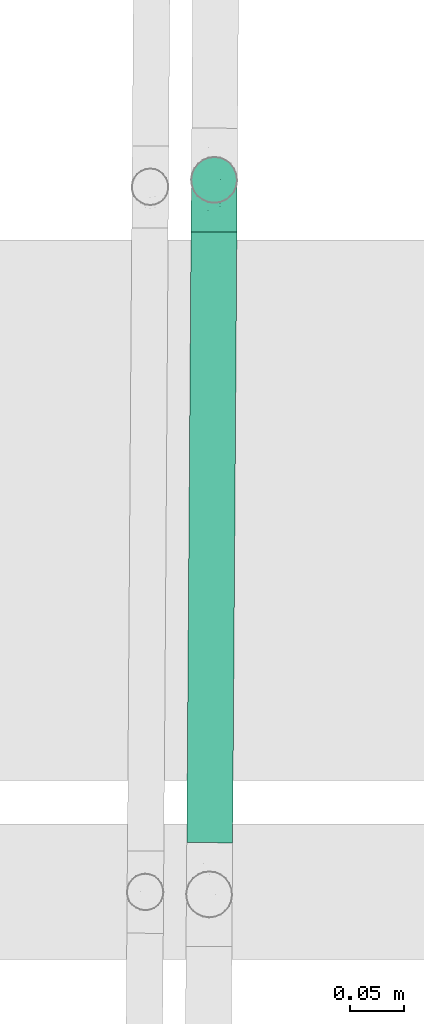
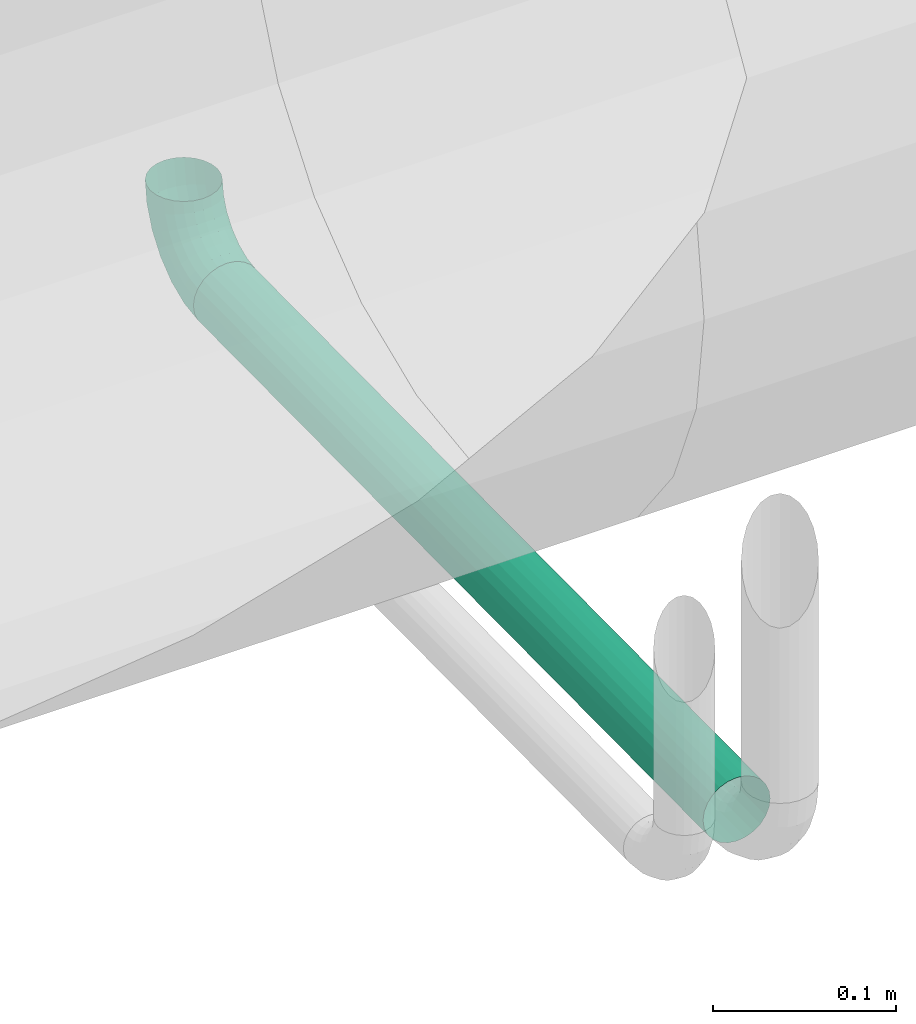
# One storey, part 316 of 374: 2 flow segments.
"""IFC2X3 building model written with IfcOpenShell, lengths in metres."""

from ifc_helpers import new_model, si_unit, direction, origin, place, context, subcontext, project, spatial, open_shell, surface_model, source, transform, mapped, element, save


model = new_model("IFC2X3")

# Units and contexts
model_context = context("Model", 3, precision=1e-05, world=origin(), true_north=direction((-0.4480736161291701, 0.8939966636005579)))
body_context = subcontext(model_context, "Body", "Model", "MODEL_VIEW")
ifc_project = project(units=[si_unit("LENGTHUNIT", "METRE"), si_unit("AREAUNIT", "SQUARE_METRE"), si_unit("VOLUMEUNIT", "CUBIC_METRE"), si_unit("PLANEANGLEUNIT", "RADIAN"), si_unit("THERMODYNAMICTEMPERATUREUNIT", "KELVIN"), si_unit("MASSUNIT", "GRAM", prefix="KILO"), si_unit("TIMEUNIT", "SECOND")], contexts=[model_context])

# Site, building, storey
site_placement = place(None, origin())
site = spatial("IfcSite", under=ifc_project, at=site_placement, Name="Site 1", CompositionType="ELEMENT")
building_placement = place(site_placement, origin())
building = spatial("IfcBuilding", under=site, at=building_placement, Name="Undefined", CompositionType="ELEMENT")
storey_placement = place(building_placement, origin())
storey = spatial("IfcBuildingStorey", under=building, at=storey_placement, Name="Rez de chauss\x8ee", CompositionType="ELEMENT", Elevation=0.0)

# Flow segments
shared_shape_1 = source(origin(), body_context, "Body", "SurfaceModel", [
    surface_model("IfcFaceBasedSurfaceModel", [(0.01806482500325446, 7.105427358e-15, 0.0), (0.017970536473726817, 0.005533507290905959, 0.0), (9.428852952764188e-05, 0.005533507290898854, 0.0), (0.0, 0.0, 0.0), (-0.017172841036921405, 0.00613233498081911, -0.004587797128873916), (-0.01744928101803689, 0.0006051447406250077, -0.004636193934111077), (-0.03265412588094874, 0.007289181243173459, -0.013450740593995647), (-0.0330938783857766, 0.0017741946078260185, -0.013592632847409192), (-0.045294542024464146, 0.008925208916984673, -0.02598483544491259), (-0.045867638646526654, 0.0034274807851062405, -0.02625895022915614), (-0.054232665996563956, 0.010928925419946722, -0.041335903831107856), (-0.05490005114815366, 0.005452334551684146, -0.04177195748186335), (-0.05885937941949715, 0.013163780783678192, -0.05845779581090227), (-0.059575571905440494, 0.007710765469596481, -0.05907446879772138), (0.01769409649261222, 0.010875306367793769, -0.0014203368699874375), (0.00037072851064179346, 0.010875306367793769, -0.0014203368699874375), (-0.016362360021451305, 0.011455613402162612, -0.005866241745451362), (-0.03136483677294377, 0.012576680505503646, -0.014455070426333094), (-0.04361430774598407, 0.014162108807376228, -0.026601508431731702), (-0.05227599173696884, 0.016103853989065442, -0.0414777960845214), (-0.05675960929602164, 0.018269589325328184, -0.05807013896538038), (0.017254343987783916, 0.015661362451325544, -0.0041642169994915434), (0.0008104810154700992, 0.015661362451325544, -0.004164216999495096), (-0.01507307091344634, 0.016212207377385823, -0.008384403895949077), (-0.029313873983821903, 0.01727635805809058, -0.016537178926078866), (-0.04094144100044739, 0.01878129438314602, -0.02806694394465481), (-0.049163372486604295, 0.02062445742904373, -0.042187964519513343), (-0.05341935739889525, 0.02268023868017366, -0.05793791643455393), (0.016681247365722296, 0.01956551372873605, -0.008044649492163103), (0.001383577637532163, 0.01956551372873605, -0.008044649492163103), (-0.01339283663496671, 0.020077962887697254, -0.011970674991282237), (-0.026641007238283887, 0.021067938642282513, -0.01955517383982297), (-0.03745809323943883, 0.02246797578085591, -0.03028127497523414), (-0.04510692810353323, 0.0241826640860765, -0.04341801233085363), (-0.04906625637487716, 0.026095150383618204, -0.05807013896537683), (0.016013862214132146, 0.022321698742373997, -0.012797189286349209), (0.0020509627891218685, 0.022321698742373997, -0.012797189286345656), (-0.011436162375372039, 0.02278943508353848, -0.016380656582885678), (-0.023528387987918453, 0.02369303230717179, -0.023303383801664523), (-0.03340164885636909, 0.024970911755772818, -0.03309359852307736), (-0.040383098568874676, 0.026535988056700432, -0.04508411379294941), (-0.04399696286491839, 0.028281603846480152, -0.05845779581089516), (0.015297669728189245, 0.023742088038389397, -0.018097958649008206), (0.00276715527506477, 0.023742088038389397, -0.018097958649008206), (-0.009336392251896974, 0.024161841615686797, -0.021313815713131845), (-0.02018813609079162, 0.02497274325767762, -0.0275263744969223), (-0.029048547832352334, 0.02611953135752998, -0.03631225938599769), (-0.03531380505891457, 0.027524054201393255, -0.04707272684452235), (-0.0385569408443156, 0.02909059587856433, -0.05907446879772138), (0.014581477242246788, 0.023729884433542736, -0.02358571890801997), (0.0034833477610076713, 0.023729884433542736, -0.02358571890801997), (-0.007236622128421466, 0.024101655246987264, -0.026433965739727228), (-0.016847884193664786, 0.02481986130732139, -0.03193635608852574), (-0.02469544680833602, 0.02583555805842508, -0.03971791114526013), (-0.0302445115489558, 0.027079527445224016, -0.04924833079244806), (-0.03311691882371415, 0.02846699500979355, -0.059878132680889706), (0.013914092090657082, 0.02228591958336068, -0.02888648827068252), (0.004150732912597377, 0.022285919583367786, -0.028886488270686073), (-0.005279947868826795, 0.022612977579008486, -0.031392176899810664), (-0.013735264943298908, 0.023244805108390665, -0.03623279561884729), (-0.020639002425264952, 0.02413834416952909, -0.04307846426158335), (-0.025520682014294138, 0.025232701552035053, -0.051462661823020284), (-0.028047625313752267, 0.026453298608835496, -0.060814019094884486), (0.013340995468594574, 0.01950859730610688, -0.03363902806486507), (0.0047238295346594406, 0.01950859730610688, -0.033639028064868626), (-0.0035997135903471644, 0.019797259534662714, -0.035850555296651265), (-0.011062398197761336, 0.0203549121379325, -0.04012289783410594), (-0.017155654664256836, 0.021143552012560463, -0.04616490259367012), (-0.02146423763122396, 0.022109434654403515, -0.05356481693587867), (-0.02369452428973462, 0.023186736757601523, -0.06181834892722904), (0.012901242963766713, 0.015587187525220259, -0.037519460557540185), (0.005163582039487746, 0.015587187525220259, -0.03751946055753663), (-0.0023104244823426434, 0.015846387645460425, -0.03950526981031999), (-0.009011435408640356, 0.016347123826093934, -0.043341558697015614), (-0.01448278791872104, 0.017055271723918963, -0.048766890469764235), (-0.018351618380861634, 0.017922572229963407, -0.05541153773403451), (-0.02035427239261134, 0.018889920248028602, -0.06282267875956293), (0.012624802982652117, 0.010788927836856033, -0.040263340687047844), (0.005440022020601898, 0.010788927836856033, -0.0402633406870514), (-0.0014999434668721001, 0.011029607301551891, -0.04210725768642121), (-0.007722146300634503, 0.01149456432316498, -0.045669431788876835), (-0.012802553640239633, 0.012152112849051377, -0.05070710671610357), (-0.0163949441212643, 0.012957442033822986, -0.056876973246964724), (-0.018254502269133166, 0.013855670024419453, -0.06375856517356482), (0.012530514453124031, 0.005440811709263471, -0.041683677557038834), (0.005534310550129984, 0.0054408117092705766, -0.041683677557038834), (-0.0012235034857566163, 0.005675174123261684, -0.04347919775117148), (-0.007282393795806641, 0.006127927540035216, -0.046947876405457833), (-0.012229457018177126, 0.0067682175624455, -0.05185332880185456), (-0.015727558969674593, 0.007552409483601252, -0.05786125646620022), (-0.01753830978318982, 0.008427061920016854, -0.0645622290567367), (0.012624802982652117, -9.269558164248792e-05, -0.04168367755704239), (0.005440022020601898, -9.269558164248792e-05, -0.04168367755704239), (-0.0014999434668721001, 0.00014798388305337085, -0.0435275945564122), (-0.0014999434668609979, 0.00014798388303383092, -0.0435275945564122), (-0.007722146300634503, 0.0006129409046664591, -0.047089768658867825), (-0.012802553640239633, 0.001270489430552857, -0.05212744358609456), (-0.0163949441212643, 0.002075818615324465, -0.058297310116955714), (-0.018254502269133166, 0.0029740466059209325, -0.06517890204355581), (0.012901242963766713, -0.005434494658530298, -0.0402633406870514), (0.005163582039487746, -0.005434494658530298, -0.040263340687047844), (-0.0023104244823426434, -0.005175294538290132, -0.0422491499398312), (-0.009011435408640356, -0.004674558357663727, -0.046085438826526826), (-0.01448278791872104, -0.0039664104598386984, -0.051510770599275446), (-0.018351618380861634, -0.0030991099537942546, -0.05815541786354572), (-0.02035427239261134, -0.0021317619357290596, -0.06556655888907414), (0.013340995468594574, -0.010220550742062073, -0.03751946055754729), (0.0047238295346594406, -0.010220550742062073, -0.03751946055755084), (-0.0035997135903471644, -0.009931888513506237, -0.03973098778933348), (-0.011062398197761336, -0.009374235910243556, -0.04400333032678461), (-0.017155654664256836, -0.00858559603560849, -0.05004533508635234), (-0.02146423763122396, -0.007619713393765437, -0.057445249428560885), (-0.02369452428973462, -0.006542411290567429, -0.06569878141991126), (0.013914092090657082, -0.01412470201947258, -0.03363902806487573), (0.004150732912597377, -0.014124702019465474, -0.033639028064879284), (-0.005279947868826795, -0.013797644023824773, -0.036144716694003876), (-0.013735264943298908, -0.013165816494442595, -0.0409853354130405), (-0.020639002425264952, -0.012272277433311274, -0.04783100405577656), (-0.025520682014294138, -0.011177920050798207, -0.05621520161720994), (-0.028047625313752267, -0.009957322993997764, -0.0655665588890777), (0.014581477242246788, -0.01688088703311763, -0.028886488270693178), (0.0034833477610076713, -0.01688088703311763, -0.028886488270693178), (-0.007236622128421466, -0.016509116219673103, -0.031734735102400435), (-0.016847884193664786, -0.015790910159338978, -0.03723712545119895), (-0.02469544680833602, -0.014775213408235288, -0.04501868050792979), (-0.0302445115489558, -0.01353124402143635, -0.054549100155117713), (-0.03311691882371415, -0.012143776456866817, -0.06517890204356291), (0.015297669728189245, -0.01830127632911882, -0.02358571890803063), (0.00276715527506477, -0.01830127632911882, -0.02358571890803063), (-0.009336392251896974, -0.01788152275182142, -0.026801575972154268), (-0.02018813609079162, -0.017070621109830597, -0.033014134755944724), (-0.029048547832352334, -0.01592383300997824, -0.04180001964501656), (-0.03531380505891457, -0.014519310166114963, -0.05256048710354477), (-0.0385569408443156, -0.012952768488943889, -0.06456222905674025), (0.016013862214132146, -0.01828907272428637, -0.018097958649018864), (0.0020509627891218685, -0.01828907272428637, -0.018097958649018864), (-0.011436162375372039, -0.01782133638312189, -0.021681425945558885), (-0.023528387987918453, -0.016917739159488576, -0.02860415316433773), (-0.03340164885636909, -0.01563985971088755, -0.038394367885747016), (-0.040383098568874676, -0.014074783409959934, -0.05038488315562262), (-0.04399696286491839, -0.012329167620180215, -0.06375856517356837), (0.016681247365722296, -0.01684510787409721, -0.012797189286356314), (0.001383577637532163, -0.01684510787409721, -0.012797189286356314), (-0.01339283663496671, -0.016332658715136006, -0.01672321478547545), (-0.026641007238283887, -0.015342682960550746, -0.02430771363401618), (-0.03745809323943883, -0.01394264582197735, -0.03503381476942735), (-0.04510692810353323, -0.01222795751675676, -0.04817055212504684), (-0.04906625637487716, -0.010315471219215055, -0.06282267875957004), (0.017254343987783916, -0.014067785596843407, -0.008044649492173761), (0.0008104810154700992, -0.014067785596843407, -0.008044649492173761), (-0.01507307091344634, -0.013516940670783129, -0.012264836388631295), (-0.029313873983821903, -0.012452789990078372, -0.020417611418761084), (-0.04094144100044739, -0.010947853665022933, -0.03194737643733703), (-0.049163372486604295, -0.009104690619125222, -0.04606839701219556), (-0.05341935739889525, -0.007048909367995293, -0.06181834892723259), (0.01769409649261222, -0.010146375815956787, -0.004164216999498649), (0.00037072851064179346, -0.010146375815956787, -0.004164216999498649), (-0.016362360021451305, -0.009566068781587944, -0.008610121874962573), (-0.03136483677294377, -0.008445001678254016, -0.017198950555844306), (-0.04361430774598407, -0.006859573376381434, -0.029345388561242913), (-0.05227599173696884, -0.00491782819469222, -0.04422167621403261), (-0.05675960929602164, -0.002752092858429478, -0.060814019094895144), (0.017970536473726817, -0.0053481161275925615, -0.0014203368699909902), (9.428852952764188e-05, -0.005348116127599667, -0.001420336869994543), (-0.017172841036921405, -0.004749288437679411, -0.006008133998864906), (-0.03265412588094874, -0.0035924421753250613, -0.014871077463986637), (-0.045294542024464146, -0.001956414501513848, -0.02740517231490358), (-0.054232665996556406, 4.730200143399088e-05, -0.04275624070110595), (-0.05885937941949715, 0.002282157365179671, -0.05987813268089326)], [open_shell([[[0, 1, 2, 3]], [[3, 2, 4, 5]], [[5, 4, 6, 7]], [[7, 6, 8, 9]], [[9, 8, 10, 11]], [[11, 10, 12, 13]], [[1, 14, 15, 2]], [[2, 15, 16, 4]], [[4, 16, 17, 6]], [[6, 17, 18, 8]], [[8, 18, 19, 10]], [[10, 19, 20, 12]], [[14, 21, 22, 15]], [[15, 22, 23, 16]], [[16, 23, 24, 17]], [[17, 24, 25, 18]], [[18, 25, 26, 19]], [[19, 26, 27, 20]], [[21, 28, 29, 22]], [[22, 29, 30, 23]], [[23, 30, 31, 24]], [[24, 31, 32, 25]], [[25, 32, 33, 26]], [[26, 33, 34, 27]], [[28, 35, 36, 29]], [[29, 36, 37, 30]], [[30, 37, 38, 31]], [[31, 38, 39, 32]], [[32, 39, 40, 33]], [[33, 40, 41, 34]], [[35, 42, 43, 36]], [[36, 43, 44, 37]], [[37, 44, 45, 38]], [[38, 45, 46, 39]], [[39, 46, 47, 40]], [[40, 47, 48, 41]], [[42, 49, 50, 43]], [[43, 50, 51, 44]], [[44, 51, 52, 45]], [[45, 52, 53, 46]], [[46, 53, 54, 47]], [[47, 54, 55, 48]], [[49, 56, 57, 50]], [[50, 57, 58, 51]], [[51, 58, 59, 52]], [[52, 59, 60, 53]], [[53, 60, 61, 54]], [[54, 61, 62, 55]], [[56, 63, 64, 57]], [[57, 64, 65, 58]], [[58, 65, 66, 59]], [[59, 66, 67, 60]], [[60, 67, 68, 61]], [[61, 68, 69, 62]], [[63, 70, 71, 64]], [[64, 71, 72, 65]], [[65, 72, 73, 66]], [[66, 73, 74, 67]], [[67, 74, 75, 68]], [[68, 75, 76, 69]], [[70, 77, 78, 71]], [[71, 78, 79, 72]], [[72, 79, 80, 73]], [[73, 80, 81, 74]], [[74, 81, 82, 75]], [[75, 82, 83, 76]], [[77, 84, 85, 78]], [[78, 85, 86, 79]], [[79, 86, 87, 80]], [[80, 87, 88, 81]], [[81, 88, 89, 82]], [[82, 89, 90, 83]], [[84, 91, 92, 85]], [[85, 92, 93, 86]], [[86, 94, 95, 87]], [[87, 95, 96, 88]], [[88, 96, 97, 89]], [[89, 97, 98, 90]], [[91, 99, 100, 92]], [[92, 100, 101, 93]], [[94, 101, 102, 95]], [[95, 102, 103, 96]], [[96, 103, 104, 97]], [[97, 104, 105, 98]], [[99, 106, 107, 100]], [[100, 107, 108, 101]], [[101, 108, 109, 102]], [[102, 109, 110, 103]], [[103, 110, 111, 104]], [[104, 111, 112, 105]], [[106, 113, 114, 107]], [[107, 114, 115, 108]], [[108, 115, 116, 109]], [[109, 116, 117, 110]], [[110, 117, 118, 111]], [[111, 118, 119, 112]], [[113, 120, 121, 114]], [[114, 121, 122, 115]], [[115, 122, 123, 116]], [[116, 123, 124, 117]], [[117, 124, 125, 118]], [[118, 125, 126, 119]], [[120, 127, 128, 121]], [[121, 128, 129, 122]], [[122, 129, 130, 123]], [[123, 130, 131, 124]], [[124, 131, 132, 125]], [[125, 132, 133, 126]], [[127, 134, 135, 128]], [[128, 135, 136, 129]], [[129, 136, 137, 130]], [[130, 137, 138, 131]], [[131, 138, 139, 132]], [[132, 139, 140, 133]], [[134, 141, 142, 135]], [[135, 142, 143, 136]], [[136, 143, 144, 137]], [[137, 144, 145, 138]], [[138, 145, 146, 139]], [[139, 146, 147, 140]], [[141, 148, 149, 142]], [[142, 149, 150, 143]], [[143, 150, 151, 144]], [[144, 151, 152, 145]], [[145, 152, 153, 146]], [[146, 153, 154, 147]], [[148, 155, 156, 149]], [[149, 156, 157, 150]], [[150, 157, 158, 151]], [[151, 158, 159, 152]], [[152, 159, 160, 153]], [[153, 160, 161, 154]], [[155, 162, 163, 156]], [[156, 163, 164, 157]], [[157, 164, 165, 158]], [[158, 165, 166, 159]], [[159, 166, 167, 160]], [[160, 167, 168, 161]], [[162, 0, 3, 163]], [[163, 3, 5, 164]], [[164, 5, 7, 165]], [[165, 7, 9, 166]], [[166, 9, 11, 167]], [[167, 11, 13, 168]]])]),
])
flow_segment_1_placement = place(storey_placement, origin())
element("IfcFlowSegment", 1, at=flow_segment_1_placement, inside=storey, Name="Tube coudé", ObjectType="Tube coudé", context=body_context, shape_type="MappedRepresentation", body=[
    mapped(shared_shape_1, transform((52.92671368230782, 18.0383860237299, 3.542148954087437), x_axis=(0.0009112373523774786, 0.13052301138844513, 0.9914448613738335), y_axis=(0.9906687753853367, -0.1352404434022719, 0.01689378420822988), z_axis=(0.13628847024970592, 0.9821780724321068, -0.1294283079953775))),
])
shared_shape_2 = source(origin(), body_context, "Body", "SurfaceModel", [
    surface_model("IfcFaceBasedSurfaceModel", [(0.0, 0.005534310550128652, 0.0), (0.0, 0.0, 0.0), (0.5649208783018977, 0.0, 7.105427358e-15), (0.5649208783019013, 0.00553431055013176, 1.4210854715e-14), (0.0, -0.00534573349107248, -0.0014323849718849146), (0.5649208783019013, -0.005345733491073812, -0.0014323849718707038), (0.0, -0.010138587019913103, -0.004199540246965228), (0.5649208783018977, -0.010138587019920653, -0.0041995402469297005), (0.0, -0.01405193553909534, -0.008112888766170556), (0.5649208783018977, -0.014051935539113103, -0.008112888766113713), (0.0, -0.016819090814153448, -0.012905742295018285), (0.5649208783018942, -0.016819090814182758, -0.012905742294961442), (0.0, -0.018251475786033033, -0.018251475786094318), (0.5649208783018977, -0.018251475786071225, -0.018251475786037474), (0.0, -0.0182514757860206, -0.02378578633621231), (0.5649208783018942, -0.018251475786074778, -0.023785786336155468), (0.0, -0.01681909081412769, -0.029131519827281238), (0.5649208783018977, -0.016819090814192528, -0.0291315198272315), (0.0, -0.014051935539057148, -0.03392437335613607), (0.5649208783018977, -0.01405193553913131, -0.033924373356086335), (0.0, -0.010138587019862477, -0.037837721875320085), (0.5649208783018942, -0.01013858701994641, -0.03783772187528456), (0.0, -0.005345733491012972, -0.040604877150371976), (0.5649208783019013, -0.0053457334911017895, -0.04060487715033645), (0.0, 6.4837024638e-14, -0.042037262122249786), (0.5649208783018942, -2.886579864e-14, -0.04203726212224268), (0.0, 0.005534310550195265, -0.04203726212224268), (0.5649208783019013, 0.005534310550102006, -0.042037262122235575), (0.0, 0.010880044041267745, -0.04060487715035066), (0.5649208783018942, 0.010880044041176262, -0.04060487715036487), (0.0, 0.01567289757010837, -0.03783772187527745), (0.5649208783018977, 0.01567289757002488, -0.03783772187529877), (0.0, 0.019586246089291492, -0.033924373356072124), (0.5649208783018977, 0.01958624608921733, -0.03392437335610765), (0.0, 0.0223534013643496, -0.029131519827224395), (0.5649208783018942, 0.022353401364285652, -0.029131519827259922), (0.0, 0.02378578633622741, -0.023785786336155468), (0.5649208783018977, 0.02378578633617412, -0.0237857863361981), (0.0, 0.023785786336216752, -0.01825147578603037), (0.5649208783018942, 0.023785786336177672, -0.018251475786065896), (0.0, 0.022353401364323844, -0.012905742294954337), (0.5649208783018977, 0.022353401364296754, -0.012905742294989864), (0.0, 0.019586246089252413, -0.008112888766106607), (0.5649208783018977, 0.019586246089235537, -0.008112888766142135), (0.0, 0.015672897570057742, -0.004199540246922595), (0.5649208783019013, 0.01567289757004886, -0.004199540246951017), (0.0, 0.010880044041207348, -0.0014323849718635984), (0.5649208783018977, 0.010880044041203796, -0.00143238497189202)], [open_shell([[[0, 1, 2, 3]], [[1, 4, 5, 2]], [[4, 6, 7, 5]], [[6, 8, 9, 7]], [[8, 10, 11, 9]], [[10, 12, 13, 11]], [[12, 14, 15, 13]], [[14, 16, 17, 15]], [[16, 18, 19, 17]], [[18, 20, 21, 19]], [[20, 22, 23, 21]], [[22, 24, 25, 23]], [[24, 26, 27, 25]], [[26, 28, 29, 27]], [[28, 30, 31, 29]], [[30, 32, 33, 31]], [[32, 34, 35, 33]], [[34, 36, 37, 35]], [[36, 38, 39, 37]], [[38, 40, 41, 39]], [[40, 42, 43, 41]], [[42, 44, 45, 43]], [[44, 46, 47, 45]], [[46, 0, 3, 47]]])]),
])
flow_segment_2_placement = place(storey_placement, origin())
element("IfcFlowSegment", 2, at=flow_segment_2_placement, inside=storey, Name="Tube acier d'après DIN 2448", ObjectType="Tube acier d'après DIN 2448", context=body_context, shape_type="MappedRepresentation", body=[
    mapped(shared_shape_2, transform((52.905769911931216, 17.97168854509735, 3.5065722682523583), x_axis=(-0.00698126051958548, -0.9999756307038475, 0.0), y_axis=(-0.13052301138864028, 0.000911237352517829, 0.9914448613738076), z_axis=(-0.991420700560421, 0.0069215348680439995, -0.13052619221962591))),
])

save(model, "model.ifc")
